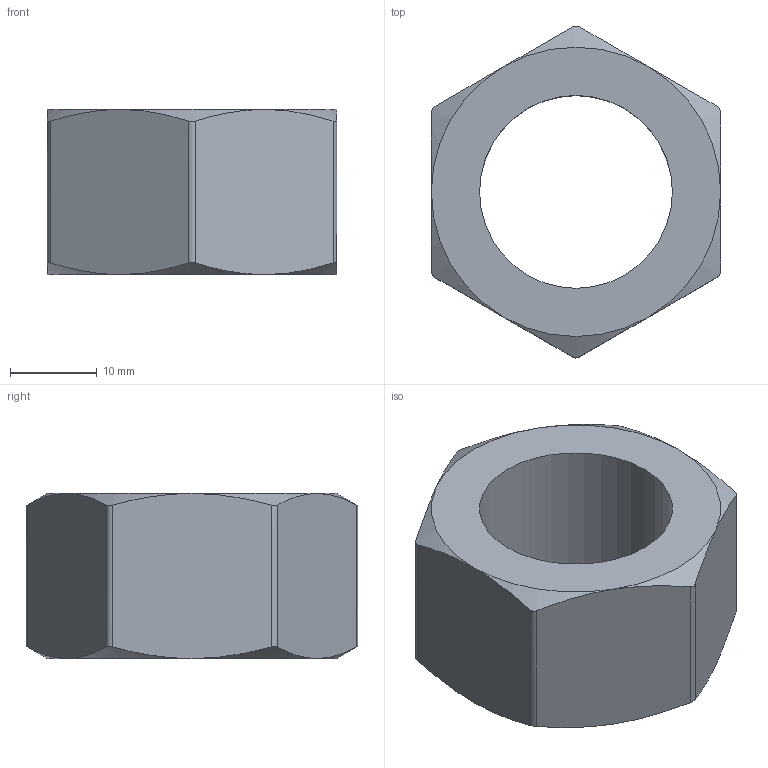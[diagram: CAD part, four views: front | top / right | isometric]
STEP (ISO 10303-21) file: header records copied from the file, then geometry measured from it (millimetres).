
FILE_DESCRIPTION (( 'STEP AP214' ), '1' );
FILE_NAME ('95462A542_Medium-Strength Steel Hex Nut.STEP', '2025-01-09T19:43:24', ( '' ), ( '' ), 'SwSTEP 2.0', 'SolidWorks 2024', '' );
FILE_SCHEMA (( 'AUTOMOTIVE_DESIGN' ));
Length unit declared in the file: inch
Products named in the file (1): 95462A542_Medium-Strength Steel Hex Nut_95462A542
Bounding box: 33.34 x 38.23 x 19.05 mm (x, y, z)
Volume: 10860.9 mm3; surface area: 4580 mm2
Topology: 1 solids, 1 shells, 27 faces, 63 edges, 38 vertices
Faces by surface type: cone 12, plane 8, cylinder 7
Full cylindrical faces by diameter (mm): 22.225 x1
Entity records: 921 total; most frequent: CARTESIAN_POINT 340, ORIENTED_EDGE 124, DIRECTION 96, EDGE_CURVE 62, AXIS2_PLACEMENT_3D 42, VERTEX_POINT 38, B_SPLINE_CURVE_WITH_KNOTS 36, EDGE_LOOP 30
